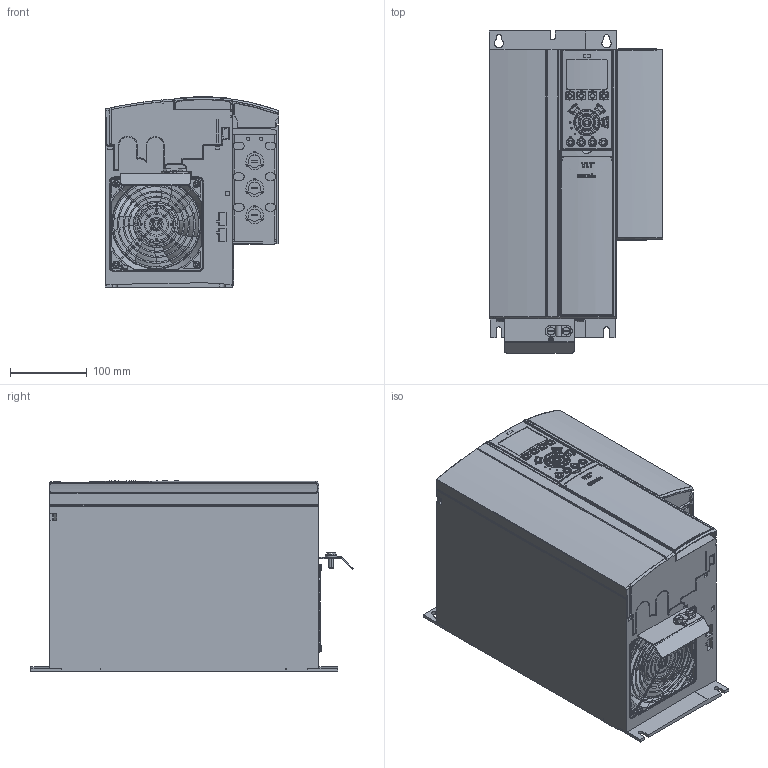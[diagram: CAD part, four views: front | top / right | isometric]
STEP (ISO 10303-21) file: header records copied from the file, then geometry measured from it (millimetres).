
FILE_DESCRIPTION((''),'2;1');
FILE_NAME('DANFOSS-FC100-B3-IP20-C-106','2007-06-13T',('Naushad.pm'),('dan Drives A/S'),'PRO/ENGINEER BY PARAMETRIC TECHNOLOGY CORPORATION, 2006200','PRO/ENGINEER BY PARAMETRIC TECHNOLOGY CORPORATION, 2006200','');
FILE_SCHEMA(('CONFIG_CONTROL_DESIGN', 'GEOMETRIC_VALIDATION_PROPERTIES_MIM'));
Length unit declared in the file: millimetre
Products named in the file (1): DANFOSS-FC100-B3-IP20-C-106
Bounding box: 225.68 x 419 x 248.01 mm (x, y, z)
Volume: 16274211.5 mm3; surface area: 633361.5 mm2
Topology: 2 solids, 19 shells, 4263 faces, 10562 edges, 6408 vertices
Faces by surface type: cylinder 1556, plane 1312, bspline 568, torus 508, sphere 171, extrusion 80, cone 68
Entity records: 205666 total; most frequent: CARTESIAN_POINT 64581, ORIENTED_EDGE 21114, DIRECTION 18947, PRESENTATION_STYLE_ASSIGNMENT 12137, STYLED_ITEM 10792, CURVE_STYLE 10557, EDGE_CURVE 10557, AXIS2_PLACEMENT_3D 7001
